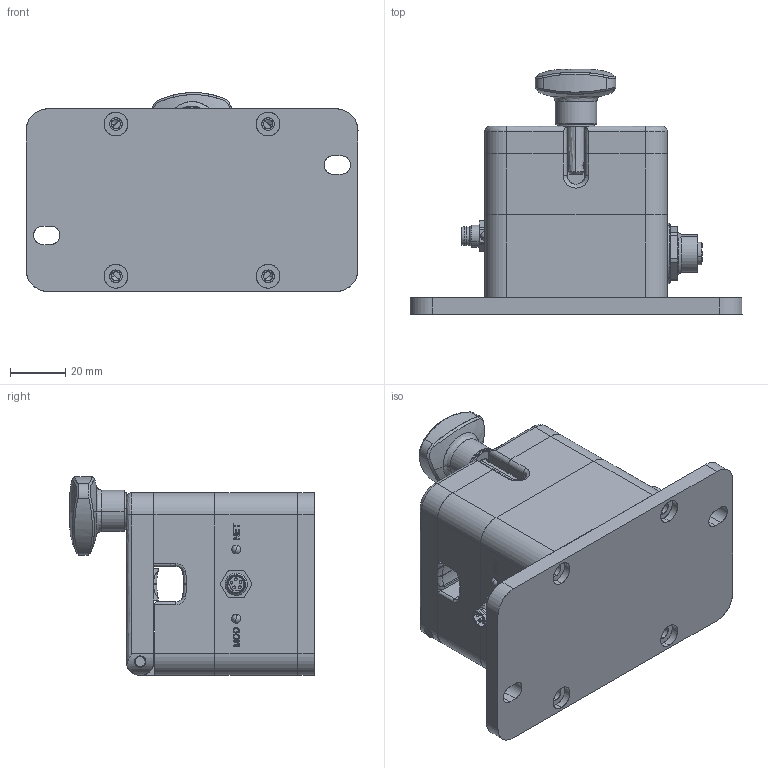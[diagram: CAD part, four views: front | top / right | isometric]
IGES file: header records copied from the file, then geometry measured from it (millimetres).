
Start section: SolidWorks IGES file using analytic representation for surfaces
Global section: file name: C:\Users\mhooglugt\Siemens\swcache\MFC117\CustomerFiles\BCU0500_BP.IGS; native system: SolidWorks 2023; preprocessor: SolidWorks 2023; author: MHooglugt; date: 251016.101037; units: inch
Bounding box: 120 x 88.5 x 71.89 mm (x, y, z)
Surface area: 79644.1 mm2 (no closed solid volume)
Topology: 0 solids, 0 shells, 1283 faces, 15781 edges, 15690 vertices
Faces by surface type: bspline 688, revolution 595
